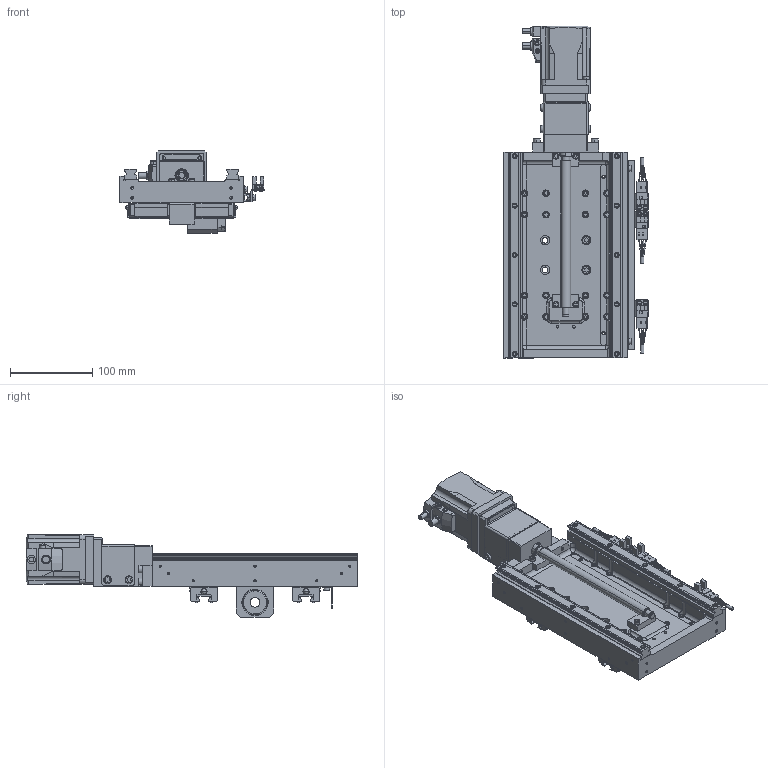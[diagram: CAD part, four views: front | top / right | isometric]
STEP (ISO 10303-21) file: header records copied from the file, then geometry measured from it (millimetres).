
FILE_DESCRIPTION (( 'STEP AP214' ), '1' );
FILE_NAME ('X_2.STEP', '2021-01-22T03:14:25', ( '' ), ( '' ), 'SwSTEP 2.0', 'SolidWorks 2017', '' );
FILE_SCHEMA (( 'AUTOMOTIVE_DESIGN' ));
Length unit declared in the file: millimetre
Products named in the file (23): 0781_Z_TMXYA05-P6-S-R-M6-D5-SX100-SY100-TX60_2_8_1; _0781_Assy_1_1; 0781_Z_TMXYA05-P6-S-R-M6-D5-SX100-SY100-TX60_2_4_1; 0781_Z_CPLCN25-8-10_2_1; 0781_303_CBE4-12_2; 0781_Z_TMXYA05-P6-S-R-M6-D5-SX100-SY100-TX60_2_6_1; _0781_SA01_2; 0781_Z_TMXYA05-P6-S-R-M6-D5-SX100-SY100-TX60_2_7_1; 0781_Z_Stepping_Motor_2_1; 0781_Z_Stepping_Motor_1_1; 0781_Z_CPLCN25-8-10_1_1; 0781_Z_TMXYA05-P6-S-R-M6-D5-SX100-SY100-TX60_2_3_1; 0781_Z_TMXYA05-P6-S-R-M6-D5-SX100-SY100-TX60_2_5_1; X_2; X; 0781_Z_TMXYA05-P6-S-R-M6-D5-SX100-SY100-TX60_2_1; 0781_001_TMXYA05-P6-S-R-M6-D5-SX100-SY100-TX60_2; 0781_Z_TMXYA05-P6-S-R-M6-D5-SX100-SY100-TX60_2_1_1; 0781_Z_TMXYA05-P6-S-R-M6-D5-SX100-SY100-TX60_2_2_1; 0781_102_Stepping_Motor_1; 0781_Z_TMXYA05-P6-S-R-M6-D5-SX100-SY100-TX60_2_10_1; 0781_Z_TMXYA05-P6-S-R-M6-D5-SX100-SY100-TX60_2_9_1; 0781_002_CPLCN25-8-10_1
Assembly tree (28 placements, depth 7):
  X_2
    X
      _0781_Assy_1_1
        _0781_SA01_2
          0781_001_TMXYA05-P6-S-R-M6-D5-SX100-SY100-TX60_2
            0781_Z_TMXYA05-P6-S-R-M6-D5-SX100-SY100-TX60_2_1
              0781_Z_TMXYA05-P6-S-R-M6-D5-SX100-SY100-TX60_2_1_1
              0781_Z_TMXYA05-P6-S-R-M6-D5-SX100-SY100-TX60_2_9_1
              0781_Z_TMXYA05-P6-S-R-M6-D5-SX100-SY100-TX60_2_2_1
              0781_Z_TMXYA05-P6-S-R-M6-D5-SX100-SY100-TX60_2_10_1
              0781_Z_TMXYA05-P6-S-R-M6-D5-SX100-SY100-TX60_2_3_1  x4
              0781_Z_TMXYA05-P6-S-R-M6-D5-SX100-SY100-TX60_2_4_1
              0781_Z_TMXYA05-P6-S-R-M6-D5-SX100-SY100-TX60_2_5_1
              0781_Z_TMXYA05-P6-S-R-M6-D5-SX100-SY100-TX60_2_6_1
              0781_Z_TMXYA05-P6-S-R-M6-D5-SX100-SY100-TX60_2_7_1
              0781_Z_TMXYA05-P6-S-R-M6-D5-SX100-SY100-TX60_2_8_1
          0781_002_CPLCN25-8-10_1
            0781_Z_CPLCN25-8-10_1_1
            0781_Z_CPLCN25-8-10_2_1  x4
          0781_102_Stepping_Motor_1
            0781_Z_Stepping_Motor_1_1
            0781_Z_Stepping_Motor_2_1
          0781_303_CBE4-12_2
Bounding box: 175 x 403 x 100 mm (x, y, z)
Volume: 1335811.3 mm3; surface area: 376050.2 mm2
Topology: 110 solids, 114 shells, 3450 faces, 8572 edges, 5483 vertices
Faces by surface type: plane 1825, cylinder 1066, cone 496, bspline 31, torus 16, sphere 16
Entity records: 127217 total; most frequent: CARTESIAN_POINT 21548, DIRECTION 15166, ORIENTED_EDGE 14228, EDGE_CURVE 7114, AXIS2_PLACEMENT_3D 5401, VERTEX_POINT 4641, VECTOR 4364, LINE 4364
